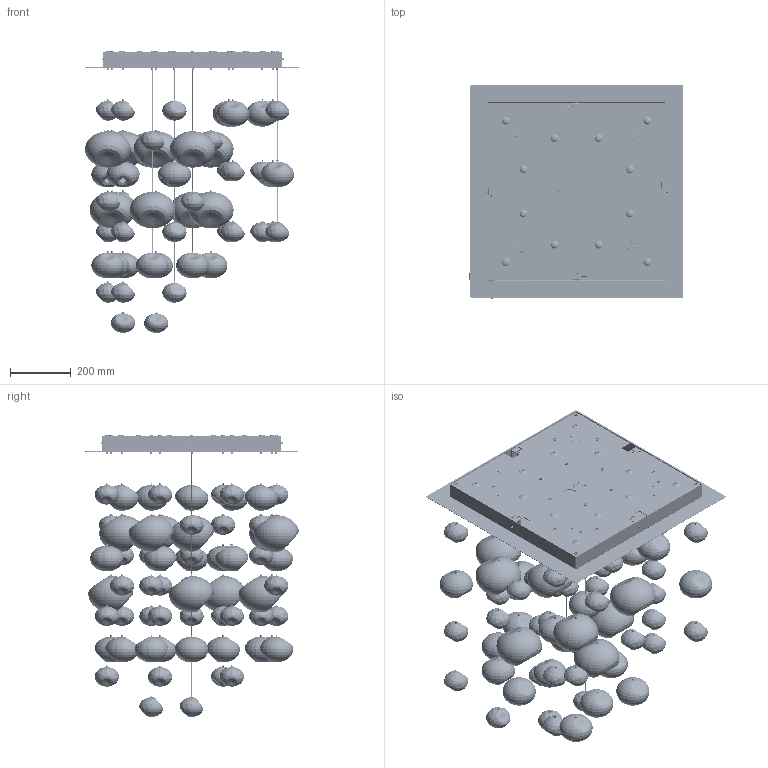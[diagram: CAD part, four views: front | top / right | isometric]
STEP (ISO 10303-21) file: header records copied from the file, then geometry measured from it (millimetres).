
FILE_DESCRIPTION(/* description */ (''),/* implementation_level */ '2;1');
FILE_NAME(/* name */ 'ETHER SQUARE B',/* time_stamp */ '2025-09-04T16:19:51+02:00',/* author */ (''),/* organization */ (''),/* preprocessor_version */ 'ST-DEVELOPER v16.5',/* originating_system */ 'Rhino 7.38',/* authorisation */ '');
FILE_SCHEMA (('CONFIG_CONTROL_DESIGN'));
Products named in the file (53): Document; 146C020-E; 146C016-A; 146C013; 146C015; 146C014; 146C011; SEEGER N.4 ZINCATO minetti; DADO M4 DIN934 ZB; RONDELLA DENTELLATA ESTERNA M4; Z0033; Z0008; K011; RONDELLA M4 D.12 H1 ZINCATA DIN9021; VITE TCEI M4X6 UNI5931 ZB; K002; X0072; Z0009; 146C006; VITE TCEI M4X12 UNI5931 ZB; 146C010-G-927; Z0022; C026-927; C005; C008; B005; Vite TSP CR M3x8 zincata; VITE TC AUTOFIL M2,9X9,5 ZN UNI6954AB DIN7981C; K001; R001-36; 146C005; RONDELLA Ø7 H2 F.Ø3.2 STEAB 5021-2-118; VITE AUTOFIL. Ø2.9X6.5 TCC UNI 6954 AB; VITE TCEI M3X25 UNI5931 ZB; E007-0,5A; W037; Z017-P; W042; W044; 146C009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
Assembly tree (221 placements, depth 3):
  Document
    146C020-E  x4
      146C016-A
      146C013
      146C015
      146C014
      146C011
      SEEGER N.4 ZINCATO minetti
    DADO M4 DIN934 ZB  x4
    RONDELLA DENTELLATA ESTERNA M4  x4
    Z0033  x4
      Z0008
      K011
    RONDELLA M4 D.12 H1 ZINCATA DIN9021  x4
    VITE TCEI M4X6 UNI5931 ZB  x4
    K002
    X0072  x22
    Z0009  x22
    146C006  x22
    VITE TCEI M4X12 UNI5931 ZB  x4
    146C010-G-927  x4
      Z0022
      C026-927
      C005
      C008
      B005
      Vite TSP CR M3x8 zincata
      VITE TC AUTOFIL M2,9X9,5 ZN UNI6954AB DIN7981C
      K001
      R001-36
      146C005
      RONDELLA Ø7 H2 F.Ø3.2 STEAB 5021-2-118
      VITE AUTOFIL. Ø2.9X6.5 TCC UNI 6954 AB
      VITE TCEI M3X25 UNI5931 ZB
      E007-0,5A
      W037
      Z017-P
      W042
      W044
    146C009
      146C009-1
      146C009-2
      X0057-008  x5
    146C003
    146C020-C  x4
      146C016-A
      146C015
      146C014
      146C013
      146C011
      SEEGER N.4 ZINCATO minetti
    146C020-F  x5
      146C016-B
      146C014
      146C013
      SEEGER N.4 ZINCATO minetti
      00146C012
    146C020-D  x3
      146C016-B
      146C014
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Bounding box: 704.28 x 702.82 x 928.81 mm (x, y, z)
Volume: 4481022.5 mm3; surface area: 6149659.2 mm2
Topology: 469 solids, 491 shells, 17859 faces, 46248 edges, 30362 vertices
Faces by surface type: plane 9166, cylinder 5153, bspline 3540
Full cylindrical faces by diameter (mm): 0.65 x5, 0.88 x8, 1 x77, 1.15 x16, 1.25 x4, 1.5 x16, 2 x44, 2.25 x8, 2.3 x16, 2.459 x19, 2.8 x8, 2.9 x28, 3 x100, 3.1 x8, 3.2 x12, 3.242 x12, 3.3 x30, 3.5 x22, 4 x43, 4.3 x12, 4.9 x4, 5 x8, 5.5 x21, 5.6 x8, 5.8 x4, 6 x22, 6.5 x56, 6.6 x8, 7 x30, 8 x44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
Entity records: 378661 total; most frequent: CARTESIAN_POINT 299984, ORIENTED_EDGE 17891, EDGE_CURVE 8947, VERTEX_POINT 5868, B_SPLINE_CURVE_WITH_KNOTS 5702, EDGE_LOOP 3841, ADVANCED_FACE 3342, FACE_OUTER_BOUND 3342
